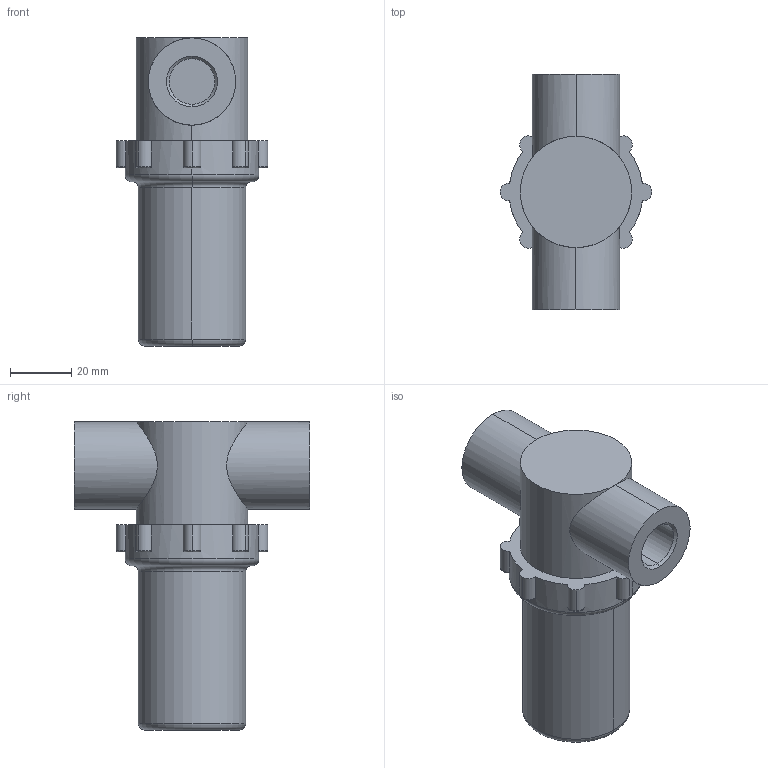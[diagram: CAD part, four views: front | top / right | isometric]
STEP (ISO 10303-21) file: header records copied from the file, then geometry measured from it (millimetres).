
FILE_DESCRIPTION((''),'2;1');
FILE_NAME('0821305183','2015-07-23T',('UAH1HC'),(''),'PRO/ENGINEER BY PARAMETRIC TECHNOLOGY CORPORATION, 2012421','PRO/ENGINEER BY PARAMETRIC TECHNOLOGY CORPORATION, 2012421','');
FILE_SCHEMA(('CONFIG_CONTROL_DESIGN','SHAPE_APPEARANCE_LAYERS_GROUPS'));
Length unit declared in the file: millimetre
Products named in the file (1): 0821305183
Bounding box: 49.7 x 77.2 x 101 mm (x, y, z)
Volume: 129128.1 mm3; surface area: 21022.6 mm2
Topology: 1 solids, 1 shells, 79 faces, 192 edges, 120 vertices
Faces by surface type: cylinder 30, torus 22, plane 17, cone 10
Entity records: 2531 total; most frequent: CARTESIAN_POINT 554, DIRECTION 454, ORIENTED_EDGE 384, AXIS2_PLACEMENT_3D 203, EDGE_CURVE 192, CIRCLE 124, VERTEX_POINT 120, EDGE_LOOP 84
